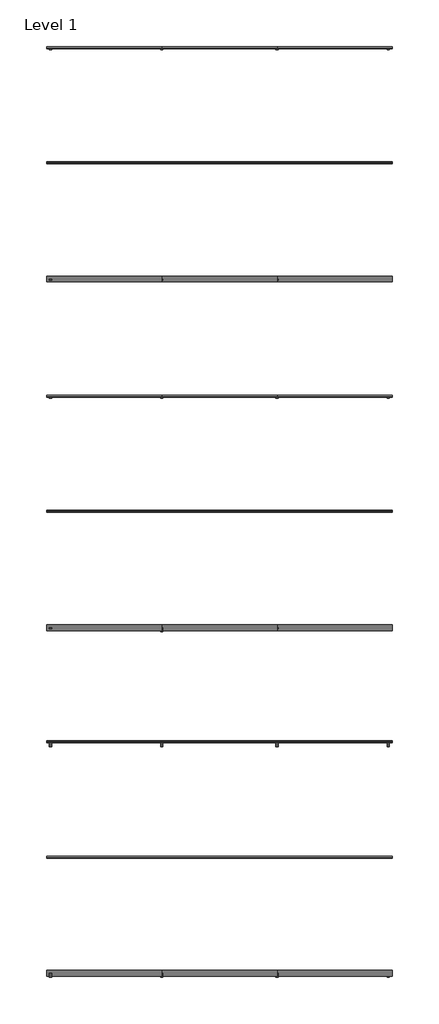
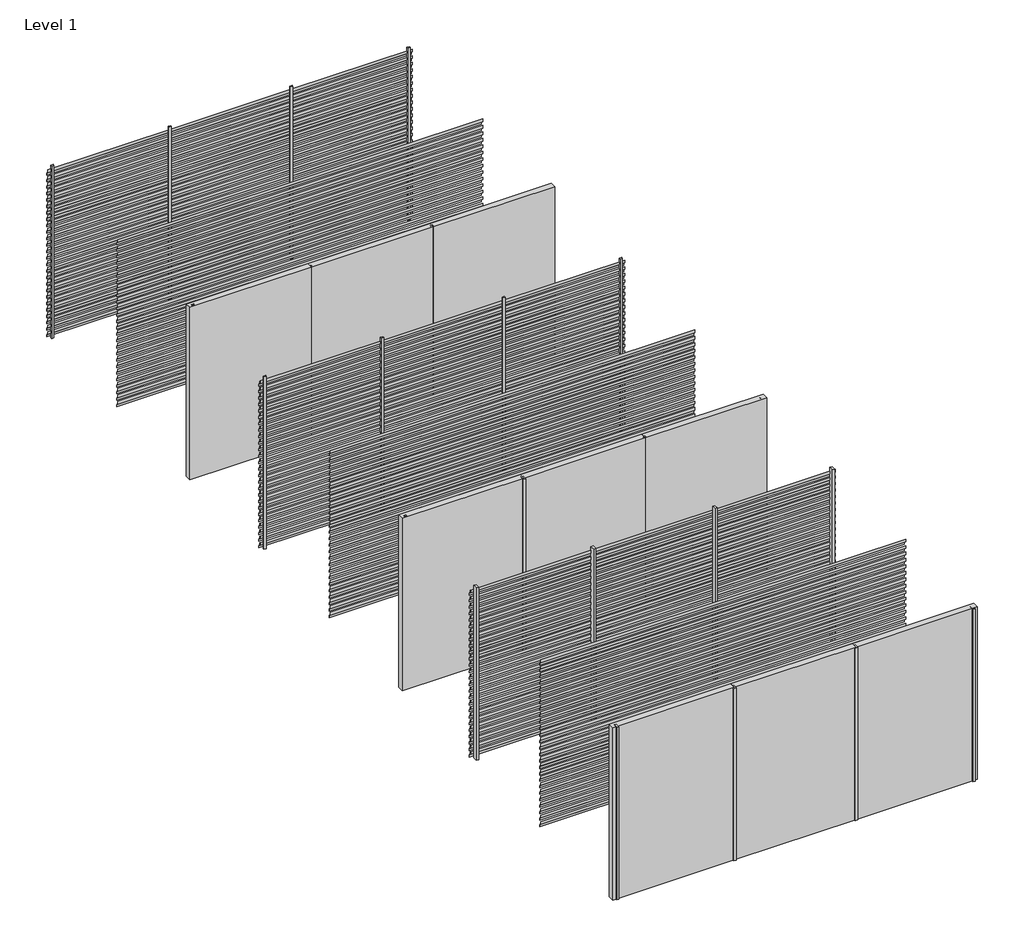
# One storey: 24 members, 21 plates.
"""IFC4 building model written with IfcOpenShell, lengths in millimetres."""

from ifc_helpers import new_model, si_unit, origin, place, context, project, spatial, transform, mapped, element, save
from components import rectangular_mullion_38ebcafd, rectangular_mullion_2b30d03f, rectangular_mullion_a5d3c004, rectangular_mullion_b9a1a312, rectangular_mullion_3da17bfe, rectangular_mullion_3b23135f, empty_system_panel_empty_24b1c33f, screening_35_112_screening_35_112_460ddd10, screening_35_112_screening_35_112_fbb12f49

model = new_model("IFC4")

# Units and contexts
model_context = context("Model", 3, world=origin())
ifc_project = project(units=[si_unit("LENGTHUNIT", "METRE", prefix="MILLI")], contexts=[model_context])

# Site, building, storey
site = spatial("IfcSite", under=ifc_project)
building = spatial("IfcBuilding", under=site)
storey = spatial("IfcBuildingStorey", under=building, Name="Level 1", Elevation=0.0)

# Members
placement = place(None, origin())
rectangular_mullion_shape = rectangular_mullion_38ebcafd(model_context)
element("IfcMember", 1, ObjectType="Rectangular Mullion : RSen_21_CWM_support profile - 40x21 - left_gen_duco projects", at=placement, inside=storey, context=model_context, shape_type="MappedRepresentation", body=[
    mapped(rectangular_mullion_shape, transform((0.0, 0.0, 0.0), x_axis=(-1.0, 0.0, 0.0), y_axis=(0.0, 1.0, 0.0), z_axis=(0.0, 0.0, -1.0))),
])
element("IfcMember", 2, ObjectType="Rectangular Mullion : RSen_21_CWM_support profile - 40x21 - left_gen_duco projects", at=placement, inside=storey, context=model_context, shape_type="MappedRepresentation", body=[
    mapped(rectangular_mullion_shape, transform((0.0, -4000.0, 0.0), x_axis=(-1.0, 0.0, 0.0), y_axis=(0.0, 1.0, 0.0), z_axis=(0.0, 0.0, -1.0))),
])
rectangular_mullion_2_shape = rectangular_mullion_2b30d03f(model_context)
element("IfcMember", 3, ObjectType="Rectangular Mullion : RSen_21_CWM_support profile - 40x21 - right_gen_duco projects", at=placement, inside=storey, context=model_context, shape_type="MappedRepresentation", body=[
    mapped(rectangular_mullion_2_shape, transform((6000.0, 0.0, 3000.0), x_axis=(1.0, 0.0, 0.0), y_axis=(0.0, 1.0, 0.0), z_axis=(0.0, 0.0, 1.0))),
])
element("IfcMember", 4, ObjectType="Rectangular Mullion : RSen_21_CWM_support profile - 40x21 - right_gen_duco projects", at=placement, inside=storey, context=model_context, shape_type="MappedRepresentation", body=[
    mapped(rectangular_mullion_2_shape, transform((6000.0, -4000.0, 3000.0), x_axis=(1.0, 0.0, 0.0), y_axis=(0.0, 1.0, 0.0), z_axis=(0.0, 0.0, 1.0))),
])
rectangular_mullion_3_shape = rectangular_mullion_a5d3c004(model_context)
element("IfcMember", 5, ObjectType="Rectangular Mullion : RSen_21_CWM_support profile - 40x70-double - left_gen_duco projects", at=placement, inside=storey, context=model_context, shape_type="MappedRepresentation", body=[
    mapped(rectangular_mullion_3_shape, transform((0.0, -6000.0, 0.0), x_axis=(-1.0, 0.0, 0.0), y_axis=(0.0, 1.0, 0.0), z_axis=(0.0, 0.0, -1.0))),
])
element("IfcMember", 6, ObjectType="Rectangular Mullion : RSen_21_CWM_support profile - 40x70-double - left_gen_duco projects", at=placement, inside=storey, context=model_context, shape_type="MappedRepresentation", body=[
    mapped(rectangular_mullion_3_shape, transform((0.0, -10000.0, 0.0), x_axis=(-1.0, 0.0, 0.0), y_axis=(0.0, 1.0, 0.0), z_axis=(0.0, 0.0, -1.0))),
])
rectangular_mullion_4_shape = rectangular_mullion_b9a1a312(model_context)
element("IfcMember", 7, ObjectType="Rectangular Mullion : RSen_21_CWM_support profile - 40x70-double - right_gen_duco projects", at=placement, inside=storey, context=model_context, shape_type="MappedRepresentation", body=[
    mapped(rectangular_mullion_4_shape, transform((6000.0, -6000.0, 3000.0), x_axis=(1.0, 0.0, 0.0), y_axis=(0.0, 1.0, 0.0), z_axis=(0.0, 0.0, 1.0))),
])
element("IfcMember", 8, ObjectType="Rectangular Mullion : RSen_21_CWM_support profile - 40x70-double - right_gen_duco projects", at=placement, inside=storey, context=model_context, shape_type="MappedRepresentation", body=[
    mapped(rectangular_mullion_4_shape, transform((6000.0, -10000.0, 3000.0), x_axis=(1.0, 0.0, 0.0), y_axis=(0.0, 1.0, 0.0), z_axis=(0.0, 0.0, 1.0))),
])
rectangular_mullion_5_shape = rectangular_mullion_3da17bfe(model_context)
element("IfcMember", 9, ObjectType="Rectangular Mullion : RSen_21_CWM_support profile - 40x70-double_gen_duco projects", at=placement, inside=storey, context=model_context, shape_type="MappedRepresentation", body=[
    mapped(rectangular_mullion_5_shape, transform((2000.0, -4000.0, 0.0), x_axis=(-1.0, 0.0, 0.0), y_axis=(0.0, 1.0, 0.0), z_axis=(0.0, 0.0, -1.0))),
])
element("IfcMember", 10, ObjectType="Rectangular Mullion : RSen_21_CWM_support profile - 40x70-double_gen_duco projects", at=placement, inside=storey, context=model_context, shape_type="MappedRepresentation", body=[
    mapped(rectangular_mullion_5_shape, transform((4000.0, -6000.0, 0.0), x_axis=(-1.0, 0.0, 0.0), y_axis=(0.0, 1.0, 0.0), z_axis=(0.0, 0.0, -1.0))),
])
element("IfcMember", 11, ObjectType="Rectangular Mullion : RSen_21_CWM_support profile - 40x70-double_gen_duco projects", at=placement, inside=storey, context=model_context, shape_type="MappedRepresentation", body=[
    mapped(rectangular_mullion_5_shape, transform((2000.0, -6000.0, 0.0), x_axis=(-1.0, 0.0, 0.0), y_axis=(0.0, 1.0, 0.0), z_axis=(0.0, 0.0, -1.0))),
])
element("IfcMember", 12, ObjectType="Rectangular Mullion : RSen_21_CWM_support profile - 40x70-double_gen_duco projects", at=placement, inside=storey, context=model_context, shape_type="MappedRepresentation", body=[
    mapped(rectangular_mullion_5_shape, transform((4000.0, -10000.0, 0.0), x_axis=(-1.0, 0.0, 0.0), y_axis=(0.0, 1.0, 0.0), z_axis=(0.0, 0.0, -1.0))),
])
element("IfcMember", 13, ObjectType="Rectangular Mullion : RSen_21_CWM_support profile - 40x70-double_gen_duco projects", at=placement, inside=storey, context=model_context, shape_type="MappedRepresentation", body=[
    mapped(rectangular_mullion_5_shape, transform((2000.0, -10000.0, 0.0), x_axis=(-1.0, 0.0, 0.0), y_axis=(0.0, 1.0, 0.0), z_axis=(0.0, 0.0, -1.0))),
])
rectangular_mullion_6_shape = rectangular_mullion_3b23135f(model_context)
element("IfcMember", 14, ObjectType="Rectangular Mullion : RSen_21_CWM_support profile - 40x21 - gen_duco projects", at=placement, inside=storey, context=model_context, shape_type="MappedRepresentation", body=[
    mapped(rectangular_mullion_6_shape, transform((4000.0, 0.0, 0.0), x_axis=(-1.0, 0.0, 0.0), y_axis=(0.0, 1.0, 0.0), z_axis=(0.0, 0.0, -1.0))),
])
element("IfcMember", 15, ObjectType="Rectangular Mullion : RSen_21_CWM_support profile - 40x21 - gen_duco projects", at=placement, inside=storey, context=model_context, shape_type="MappedRepresentation", body=[
    mapped(rectangular_mullion_6_shape, transform((2000.0, 0.0, 0.0), x_axis=(-1.0, 0.0, 0.0), y_axis=(0.0, 1.0, 0.0), z_axis=(0.0, 0.0, -1.0))),
])
element("IfcMember", 16, ObjectType="Rectangular Mullion : RSen_21_CWM_support profile - 40x21 - gen_duco projects", at=placement, inside=storey, context=model_context, shape_type="MappedRepresentation", body=[
    mapped(rectangular_mullion_6_shape, transform((4000.0, -4000.0, 0.0), x_axis=(-1.0, 0.0, 0.0), y_axis=(0.0, 1.0, 0.0), z_axis=(0.0, 0.0, -1.0))),
])
element("IfcMember", 17, ObjectType="Rectangular Mullion : RSen_21_CWM_support profile - 40x21-double_gen_duco projects", at=placement, inside=storey, context=model_context, shape_type="MappedRepresentation", body=[
    mapped(rectangular_mullion_6_shape, transform((4000.0, 6050.5, 0.0), x_axis=(-1.0, 0.0, 0.0), y_axis=(0.0, 1.0, 0.0), z_axis=(0.0, 0.0, -1.0))),
])
element("IfcMember", 18, ObjectType="Rectangular Mullion : RSen_21_CWM_support profile - 40x21-double_gen_duco projects", at=placement, inside=storey, context=model_context, shape_type="MappedRepresentation", body=[
    mapped(rectangular_mullion_6_shape, transform((2000.0, 6050.5, 0.0), x_axis=(-1.0, 0.0, 0.0), y_axis=(0.0, 1.0, 0.0), z_axis=(0.0, 0.0, -1.0))),
])
element("IfcMember", 19, ObjectType="Rectangular Mullion : RSen_21_CWM_support profile - 40x21-double_gen_duco projects", at=placement, inside=storey, context=model_context, shape_type="MappedRepresentation", body=[
    mapped(rectangular_mullion_6_shape, transform((4000.0, 2050.5, 0.0), x_axis=(-1.0, 0.0, 0.0), y_axis=(0.0, 1.0, 0.0), z_axis=(0.0, 0.0, -1.0))),
])
element("IfcMember", 20, ObjectType="Rectangular Mullion : RSen_21_CWM_support profile - 40x21-double_gen_duco projects", at=placement, inside=storey, context=model_context, shape_type="MappedRepresentation", body=[
    mapped(rectangular_mullion_6_shape, transform((2000.0, 2050.5, 0.0), x_axis=(-1.0, 0.0, 0.0), y_axis=(0.0, 1.0, 0.0), z_axis=(0.0, 0.0, -1.0))),
])
element("IfcMember", 21, ObjectType="Rectangular Mullion : RSen_21_CWM_support profile - 40x21-double - right_gen_duco projects", at=placement, inside=storey, context=model_context, shape_type="MappedRepresentation", body=[
    mapped(rectangular_mullion_2_shape, transform((6000.0, 6050.5, 3000.0), x_axis=(1.0, 0.0, 0.0), y_axis=(0.0, 1.0, 0.0), z_axis=(0.0, 0.0, 1.0))),
])
element("IfcMember", 22, ObjectType="Rectangular Mullion : RSen_21_CWM_support profile - 40x21-double - right_gen_duco projects", at=placement, inside=storey, context=model_context, shape_type="MappedRepresentation", body=[
    mapped(rectangular_mullion_2_shape, transform((6000.0, 2050.5, 3000.0), x_axis=(1.0, 0.0, 0.0), y_axis=(0.0, 1.0, 0.0), z_axis=(0.0, 0.0, 1.0))),
])
element("IfcMember", 23, ObjectType="Rectangular Mullion : RSen_21_CWM_support profile - 40x21-double - left_gen_duco projects", at=placement, inside=storey, context=model_context, shape_type="MappedRepresentation", body=[
    mapped(rectangular_mullion_shape, transform((0.0, 6050.5, 0.0), x_axis=(-1.0, 0.0, 0.0), y_axis=(0.0, 1.0, 0.0), z_axis=(0.0, 0.0, -1.0))),
])
element("IfcMember", 24, ObjectType="Rectangular Mullion : RSen_21_CWM_support profile - 40x21-double - left_gen_duco projects", at=placement, inside=storey, context=model_context, shape_type="MappedRepresentation", body=[
    mapped(rectangular_mullion_shape, transform((0.0, 2050.5, 0.0), x_axis=(-1.0, 0.0, 0.0), y_axis=(0.0, 1.0, 0.0), z_axis=(0.0, 0.0, -1.0))),
])

# Plates
empty_system_panel_empty_shape = empty_system_panel_empty_24b1c33f(model_context)
element("IfcPlate", 25, ObjectType="Empty System Panel : Empty", at=placement, inside=storey, context=model_context, shape_type="MappedRepresentation", body=[
    mapped(empty_system_panel_empty_shape, transform((5000.0, -4000.0, 0.0), x_axis=(-1.0, 0.0, 0.0), y_axis=(0.0, -1.0, 0.0), z_axis=(0.0, 0.0, 1.0))),
])
element("IfcPlate", 26, ObjectType="Empty System Panel : Empty", at=placement, inside=storey, context=model_context, shape_type="MappedRepresentation", body=[
    mapped(empty_system_panel_empty_shape, transform((5000.0, -10000.0, 0.0), x_axis=(-1.0, 0.0, 0.0), y_axis=(0.0, -1.0, 0.0), z_axis=(0.0, 0.0, 1.0))),
])
element("IfcPlate", 27, ObjectType="Empty System Panel : Empty", at=placement, inside=storey, context=model_context, shape_type="MappedRepresentation", body=[
    mapped(empty_system_panel_empty_shape, transform((3000.0, -4000.0, 0.0), x_axis=(-1.0, 0.0, 0.0), y_axis=(0.0, -1.0, 0.0), z_axis=(0.0, 0.0, 1.0))),
])
element("IfcPlate", 28, ObjectType="Empty System Panel : Empty", at=placement, inside=storey, context=model_context, shape_type="MappedRepresentation", body=[
    mapped(empty_system_panel_empty_shape, transform((1000.0, -4000.0, 0.0), x_axis=(-1.0, 0.0, 0.0), y_axis=(0.0, -1.0, 0.0), z_axis=(0.0, 0.0, 1.0))),
])
element("IfcPlate", 29, ObjectType="Empty System Panel : Empty", at=placement, inside=storey, context=model_context, shape_type="MappedRepresentation", body=[
    mapped(empty_system_panel_empty_shape, transform((3000.0, -10000.0, 0.0), x_axis=(-1.0, 0.0, 0.0), y_axis=(0.0, -1.0, 0.0), z_axis=(0.0, 0.0, 1.0))),
])
element("IfcPlate", 30, ObjectType="Empty System Panel : Empty", at=placement, inside=storey, context=model_context, shape_type="MappedRepresentation", body=[
    mapped(empty_system_panel_empty_shape, transform((1000.0, -10000.0, 0.0), x_axis=(-1.0, 0.0, 0.0), y_axis=(0.0, -1.0, 0.0), z_axis=(0.0, 0.0, 1.0))),
])
element("IfcPlate", 31, ObjectType="Empty System Panel : Empty", at=placement, inside=storey, context=model_context, shape_type="MappedRepresentation", body=[
    mapped(empty_system_panel_empty_shape, transform((5000.0, 2050.5, 0.0), x_axis=(-1.0, 0.0, 0.0), y_axis=(0.0, -1.0, 0.0), z_axis=(0.0, 0.0, 1.0))),
])
element("IfcPlate", 32, ObjectType="Empty System Panel : Empty", at=placement, inside=storey, context=model_context, shape_type="MappedRepresentation", body=[
    mapped(empty_system_panel_empty_shape, transform((3000.0, 2050.5, 0.0), x_axis=(-1.0, 0.0, 0.0), y_axis=(0.0, -1.0, 0.0), z_axis=(0.0, 0.0, 1.0))),
])
element("IfcPlate", 33, ObjectType="Empty System Panel : Empty", at=placement, inside=storey, context=model_context, shape_type="MappedRepresentation", body=[
    mapped(empty_system_panel_empty_shape, transform((1000.0, 2050.5, 0.0), x_axis=(-1.0, 0.0, 0.0), y_axis=(0.0, -1.0, 0.0), z_axis=(0.0, 0.0, 1.0))),
])
screening_35_112_screening_35_112_shape = screening_35_112_screening_35_112_460ddd10(model_context)
element("IfcPlate", 34, ObjectType="Screening 35-112 : Screening 35-112", at=placement, inside=storey, context=model_context, shape_type="MappedRepresentation", body=[
    mapped(screening_35_112_screening_35_112_shape, transform((5000.0, 0.0, 0.0), x_axis=(-1.0, 0.0, 0.0), y_axis=(0.0, -1.0, 0.0), z_axis=(0.0, 0.0, 1.0))),
])
element("IfcPlate", 35, ObjectType="Screening 35-112 : Screening 35-112", at=placement, inside=storey, context=model_context, shape_type="MappedRepresentation", body=[
    mapped(screening_35_112_screening_35_112_shape, transform((5000.0, -6000.0, 0.0), x_axis=(-1.0, 0.0, 0.0), y_axis=(0.0, -1.0, 0.0), z_axis=(0.0, 0.0, 1.0))),
])
element("IfcPlate", 36, ObjectType="Screening 35-112 : Screening 35-112", at=placement, inside=storey, context=model_context, shape_type="MappedRepresentation", body=[
    mapped(screening_35_112_screening_35_112_shape, transform((3000.0, 0.0, 0.0), x_axis=(-1.0, 0.0, 0.0), y_axis=(0.0, -1.0, 0.0), z_axis=(0.0, 0.0, 1.0))),
])
element("IfcPlate", 37, ObjectType="Screening 35-112 : Screening 35-112", at=placement, inside=storey, context=model_context, shape_type="MappedRepresentation", body=[
    mapped(screening_35_112_screening_35_112_shape, transform((1000.0, 0.0, 0.0), x_axis=(-1.0, 0.0, 0.0), y_axis=(0.0, -1.0, 0.0), z_axis=(0.0, 0.0, 1.0))),
])
element("IfcPlate", 38, ObjectType="Screening 35-112 : Screening 35-112", at=placement, inside=storey, context=model_context, shape_type="MappedRepresentation", body=[
    mapped(screening_35_112_screening_35_112_shape, transform((3000.0, -6000.0, 0.0), x_axis=(-1.0, 0.0, 0.0), y_axis=(0.0, -1.0, 0.0), z_axis=(0.0, 0.0, 1.0))),
])
element("IfcPlate", 39, ObjectType="Screening 35-112 : Screening 35-112", at=placement, inside=storey, context=model_context, shape_type="MappedRepresentation", body=[
    mapped(screening_35_112_screening_35_112_shape, transform((1000.0, -6000.0, 0.0), x_axis=(-1.0, 0.0, 0.0), y_axis=(0.0, -1.0, 0.0), z_axis=(0.0, 0.0, 1.0))),
])
element("IfcPlate", 40, ObjectType="Screening 35-112 : Screening 35-112", at=placement, inside=storey, context=model_context, shape_type="MappedRepresentation", body=[
    mapped(screening_35_112_screening_35_112_shape, transform((5000.0, 6050.5, 0.0), x_axis=(-1.0, 0.0, 0.0), y_axis=(0.0, -1.0, 0.0), z_axis=(0.0, 0.0, 1.0))),
])
element("IfcPlate", 41, ObjectType="Screening 35-112 : Screening 35-112", at=placement, inside=storey, context=model_context, shape_type="MappedRepresentation", body=[
    mapped(screening_35_112_screening_35_112_shape, transform((3000.0, 6050.5, 0.0), x_axis=(-1.0, 0.0, 0.0), y_axis=(0.0, -1.0, 0.0), z_axis=(0.0, 0.0, 1.0))),
])
element("IfcPlate", 42, ObjectType="Screening 35-112 : Screening 35-112", at=placement, inside=storey, context=model_context, shape_type="MappedRepresentation", body=[
    mapped(screening_35_112_screening_35_112_shape, transform((1000.0, 6050.5, 0.0), x_axis=(-1.0, 0.0, 0.0), y_axis=(0.0, -1.0, 0.0), z_axis=(0.0, 0.0, 1.0))),
])
screening_35_112_screening_35_112_2_shape = screening_35_112_screening_35_112_fbb12f49(model_context)
element("IfcPlate", 43, ObjectType="Screening 35-112 : Screening 35-112", at=placement, inside=storey, context=model_context, shape_type="MappedRepresentation", body=[
    mapped(screening_35_112_screening_35_112_2_shape, transform((3000.0, -2000.0, 0.0), x_axis=(-1.0, 0.0, 0.0), y_axis=(0.0, -1.0, 0.0), z_axis=(0.0, 0.0, 1.0))),
])
element("IfcPlate", 44, ObjectType="Screening 35-112 : Screening 35-112", at=placement, inside=storey, context=model_context, shape_type="MappedRepresentation", body=[
    mapped(screening_35_112_screening_35_112_2_shape, transform((3000.0, -8000.0, 0.0), x_axis=(-1.0, 0.0, 0.0), y_axis=(0.0, -1.0, 0.0), z_axis=(0.0, 0.0, 1.0))),
])
element("IfcPlate", 45, ObjectType="Screening 35-112 : Screening 35-112", at=placement, inside=storey, context=model_context, shape_type="MappedRepresentation", body=[
    mapped(screening_35_112_screening_35_112_2_shape, transform((3000.0, 4050.5, 0.0), x_axis=(-1.0, 0.0, 0.0), y_axis=(0.0, -1.0, 0.0), z_axis=(0.0, 0.0, 1.0))),
])

save(model, "model.ifc")
